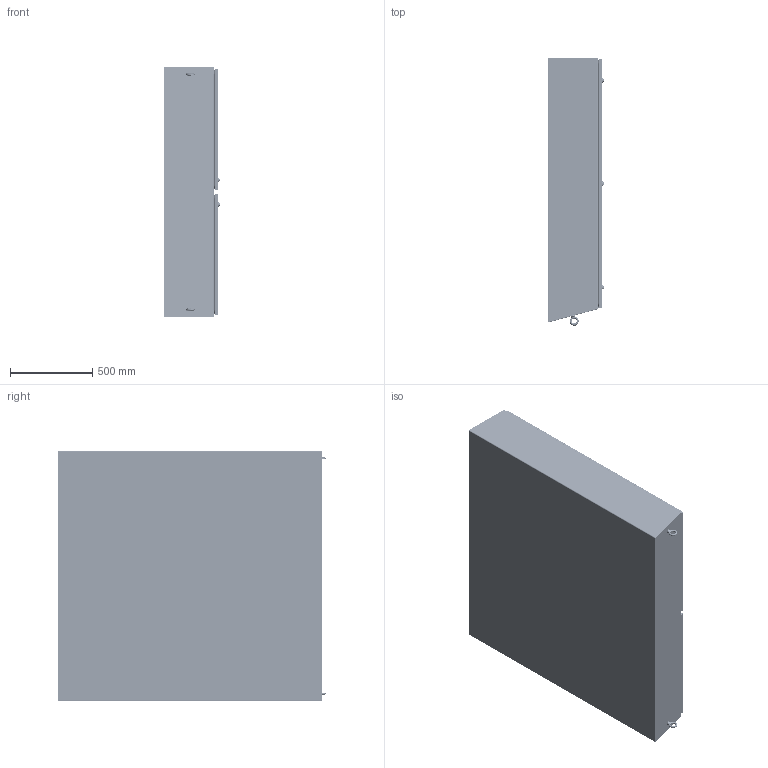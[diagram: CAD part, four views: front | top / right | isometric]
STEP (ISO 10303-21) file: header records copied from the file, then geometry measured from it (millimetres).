
FILE_DESCRIPTION((''),'2;1');
FILE_NAME('MODEL-470_ASM','2026-06-15T14:22:48',('andrew.knowlton'),('SAGINAW CONTROL & ENGINEERING'),'CREO PARAMETRIC BY PTC INC, 2021284','CREO PARAMETRIC BY PTC INC, 2021284','');
FILE_SCHEMA(('AUTOMOTIVE_DESIGN { 1 0 10303 214 1 1 1 1 }'));
Length unit declared in the file: inch
Products named in the file (62): MODEL-470-BTM; MODEL-470-RS; MODEL-470-LS; MODEL-470-BCK; MODEL-470-TP; 128026; 100024; 128026_ASM; MODEL-470-CCA-CHNL; MODEL-470-CCA-STIF; 100067; 129753; 129751; 102535; MODEL-470-CCASSY_ASM; MODEL-470-RH-DR; 100837; 100882; 111267; 116397_SHAFT; 116397_NUT; 116397_INSERT; 116397_SCREW; 116397_OUTER_O-RING; 116397_SUBASSEMBLY_ASM; 116397_CAM; 116397_INNER_O-RING; 116397_ASM; 129123; 129137; 129137_ASM; 101226; 102483; MODEL-470-RH-POUR-GSKT; MODEL-470-RH-EDGE-GSKT; 125597; MODEL-470-RH-DOOR-ASSY_ASM; MODEL-470-LH-DR; MODEL-470-LH-POUR-GSKT; MODEL-470-LH-EDGE-GSKT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
Assembly tree (195 placements, depth 5):
  MODEL-470_ASM
    MODEL-470-BTM
    MODEL-470-RS
    MODEL-470-LS
    MODEL-470-BCK
    MODEL-470-TP
    128026_ASM  x2
      128026
      100024
    MODEL-470-CCASSY_ASM
      MODEL-470-CCA-CHNL
      MODEL-470-CCA-STIF
      100067  x2
      129753  x2
      129751  x2
      102535  x8
    MODEL-470-RH-DOOR-ASSY_ASM
      MODEL-470-RH-DR
      100837  x10
      100882  x6
      111267
      116397_ASM  x3
        116397_SUBASSEMBLY_ASM
          116397_SHAFT
          116397_NUT
          116397_INSERT
          116397_SCREW
          116397_OUTER_O-RING
        116397_CAM
        116397_INNER_O-RING
      129123  x4
      129137_ASM  x4
        129137
      101226  x4
      102483  x8
      MODEL-470-RH-POUR-GSKT
      MODEL-470-RH-EDGE-GSKT
      125597
    MODEL-470-LH-DOOR-ASSY_ASM
      MODEL-470-LH-DR
      100837  x8
      116397_ASM  x3
        116397_SUBASSEMBLY_ASM
          116397_SHAFT
          116397_NUT
          116397_INSERT
          116397_SCREW
          116397_OUTER_O-RING
        116397_CAM
        116397_INNER_O-RING
      129123  x4
      129137_ASM  x4
        129137
      101226  x4
      100882  x4
      102483  x8
      MODEL-470-LH-POUR-GSKT
      MODEL-470-LH-EDGE-GSKT
    100837  x10
    101653  x8
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Bounding box: 344.68 x 1624.19 x 1524 mm (x, y, z)
Volume: 28157091.7 mm3; surface area: 21466874.5 mm2
Topology: 256 solids, 256 shells, 14630 faces, 37068 edges, 23062 vertices
Faces by surface type: plane 5685, cylinder 3387, bspline 2974, torus 1172, cone 770, sphere 436, extrusion 182, revolution 24
Entity records: 198661 total; most frequent: CARTESIAN_POINT 66500, ORIENTED_EDGE 18640, DIRECTION 18325, PRESENTATION_STYLE_ASSIGNMENT 9929, STYLED_ITEM 9927, EDGE_CURVE 9320, CURVE_STYLE 9266, AXIS2_PLACEMENT_3D 6785
